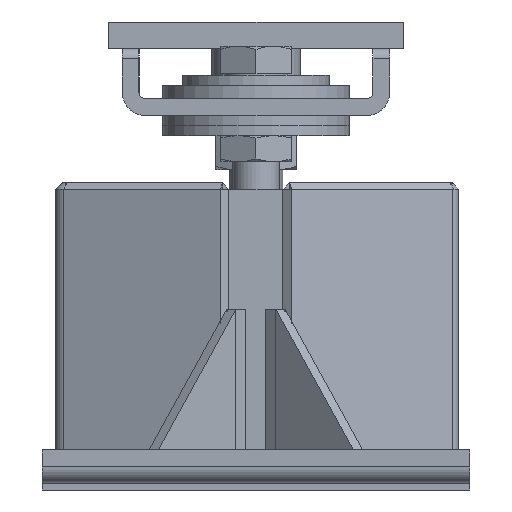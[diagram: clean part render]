
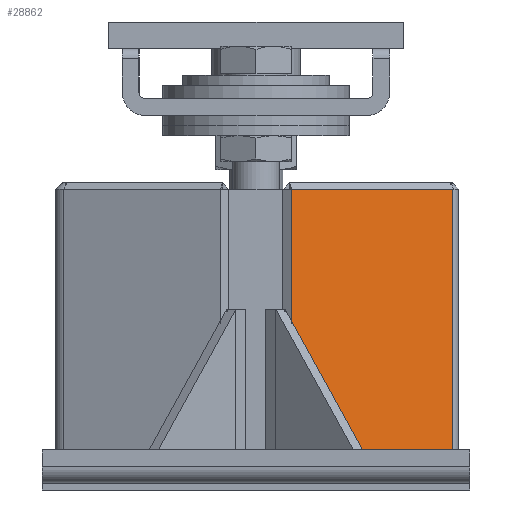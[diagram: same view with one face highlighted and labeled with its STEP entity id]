
A CAD part, left-side view. The second image highlights one B-rep face of the part: STEP entity #28862.
In plain terms, the highlighted planar face has unit normal (-0.936, -0.353, 0).
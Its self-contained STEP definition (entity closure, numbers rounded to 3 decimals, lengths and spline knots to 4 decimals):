
#1423=PLANE('',#30747);
#4471=LINE('',#44767,#7618);
#4473=LINE('',#44771,#7620);
#4474=LINE('',#44773,#7621);
#4475=LINE('',#44774,#7622);
#7618=VECTOR('',#37060,5.25);
#7620=VECTOR('',#37064,3.2052);
#7621=VECTOR('',#37065,5.25);
#7622=VECTOR('',#37066,3.2052);
#9586=FACE_OUTER_BOUND('',#11473,.T.);
#11473=EDGE_LOOP('',(#24554,#24555,#24556,#24557));
#14375=VERTEX_POINT('',#44764);
#14376=VERTEX_POINT('',#44766);
#14377=VERTEX_POINT('',#44770);
#14378=VERTEX_POINT('',#44772);
#17840=EDGE_CURVE('',#14376,#14375,#4471,.T.);
#17842=EDGE_CURVE('',#14375,#14377,#4473,.T.);
#17843=EDGE_CURVE('',#14378,#14377,#4474,.T.);
#17844=EDGE_CURVE('',#14378,#14376,#4475,.T.);
#24554=ORIENTED_EDGE('',*,*,#17842,.T.);
#24555=ORIENTED_EDGE('',*,*,#17843,.F.);
#24556=ORIENTED_EDGE('',*,*,#17844,.T.);
#24557=ORIENTED_EDGE('',*,*,#17840,.T.);
#28862=ADVANCED_FACE('',(#9586),#1423,.T.);
#30747=AXIS2_PLACEMENT_3D('',#44769,#37062,#37063);
#37060=DIRECTION('',(0.,0.,-1.));
#37062=DIRECTION('center_axis',(-0.936,-0.353,0.));
#37063=DIRECTION('ref_axis',(0.,0.,1.));
#37064=DIRECTION('',(0.353,-0.936,0.));
#37065=DIRECTION('',(0.,0.,-1.));
#37066=DIRECTION('',(-0.353,0.936,0.));
#44764=CARTESIAN_POINT('',(-5.182,-0.6701,0.375));
#44766=CARTESIAN_POINT('',(-5.182,-0.6701,5.625));
#44767=CARTESIAN_POINT('',(-5.182,-0.6701,5.625));
#44769=CARTESIAN_POINT('Origin',(-5.182,-0.6701,5.625));
#44770=CARTESIAN_POINT('',(-4.0504,-3.6689,0.375));
#44771=CARTESIAN_POINT('',(-4.0504,-3.6689,0.375));
#44772=CARTESIAN_POINT('',(-4.0504,-3.6689,5.625));
#44773=CARTESIAN_POINT('',(-4.0504,-3.6689,5.625));
#44774=CARTESIAN_POINT('',(-4.0504,-3.6689,5.625));
